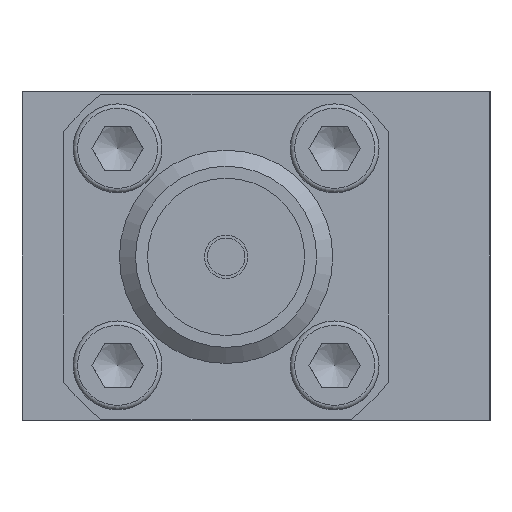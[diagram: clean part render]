
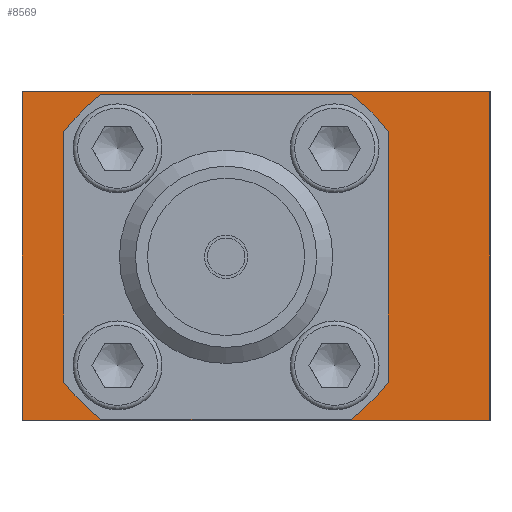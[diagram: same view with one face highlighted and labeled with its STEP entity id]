
A CAD part, left-side view. The second image highlights one B-rep face of the part: STEP entity #8569.
In plain terms, the highlighted planar face has unit normal (-1, 0, 0).
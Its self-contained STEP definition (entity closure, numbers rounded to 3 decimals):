
#186=LINE('',#11369,#597);
#190=LINE('',#11381,#601);
#194=LINE('',#11393,#605);
#198=LINE('',#11405,#609);
#248=LINE('',#11728,#659);
#249=LINE('',#11731,#660);
#250=LINE('',#11733,#661);
#251=LINE('',#11735,#662);
#597=VECTOR('',#9623,1000.);
#601=VECTOR('',#9635,1000.);
#605=VECTOR('',#9647,1000.);
#609=VECTOR('',#9659,1000.);
#659=VECTOR('',#9897,1000.);
#660=VECTOR('',#9898,1000.);
#661=VECTOR('',#9899,1000.);
#662=VECTOR('',#9900,1000.);
#1358=ORIENTED_EDGE('',*,*,#2675,.F.);
#1359=ORIENTED_EDGE('',*,*,#2676,.T.);
#1360=ORIENTED_EDGE('',*,*,#2677,.T.);
#1361=ORIENTED_EDGE('',*,*,#2678,.F.);
#1362=ORIENTED_EDGE('',*,*,#2548,.F.);
#1363=ORIENTED_EDGE('',*,*,#2570,.F.);
#1364=ORIENTED_EDGE('',*,*,#2567,.F.);
#1365=ORIENTED_EDGE('',*,*,#2564,.F.);
#1366=ORIENTED_EDGE('',*,*,#2561,.F.);
#1367=ORIENTED_EDGE('',*,*,#2558,.F.);
#1368=ORIENTED_EDGE('',*,*,#2555,.F.);
#1369=ORIENTED_EDGE('',*,*,#2552,.F.);
#2548=EDGE_CURVE('',#3268,#3269,#3831,.T.);
#2552=EDGE_CURVE('',#3269,#3272,#186,.T.);
#2555=EDGE_CURVE('',#3272,#3274,#3833,.T.);
#2558=EDGE_CURVE('',#3274,#3276,#190,.T.);
#2561=EDGE_CURVE('',#3276,#3278,#3835,.T.);
#2564=EDGE_CURVE('',#3278,#3280,#194,.T.);
#2567=EDGE_CURVE('',#3280,#3282,#3837,.T.);
#2570=EDGE_CURVE('',#3282,#3268,#198,.T.);
#2675=EDGE_CURVE('',#3367,#3368,#248,.T.);
#2676=EDGE_CURVE('',#3367,#3369,#249,.T.);
#2677=EDGE_CURVE('',#3369,#3370,#250,.T.);
#2678=EDGE_CURVE('',#3368,#3370,#251,.T.);
#3268=VERTEX_POINT('',#11361);
#3269=VERTEX_POINT('',#11362);
#3272=VERTEX_POINT('',#11370);
#3274=VERTEX_POINT('',#11376);
#3276=VERTEX_POINT('',#11382);
#3278=VERTEX_POINT('',#11388);
#3280=VERTEX_POINT('',#11394);
#3282=VERTEX_POINT('',#11400);
#3367=VERTEX_POINT('',#11729);
#3368=VERTEX_POINT('',#11730);
#3369=VERTEX_POINT('',#11732);
#3370=VERTEX_POINT('',#11734);
#3831=CIRCLE('',#8938,6.);
#3833=CIRCLE('',#8942,6.);
#3835=CIRCLE('',#8946,6.);
#3837=CIRCLE('',#8950,6.);
#4194=EDGE_LOOP('',(#1358,#1359,#1360,#1361));
#4195=EDGE_LOOP('',(#1362,#1363,#1364,#1365,#1366,#1367,#1368,#1369));
#4835=FACE_BOUND('',#4194,.T.);
#4836=FACE_BOUND('',#4195,.T.);
#5410=PLANE('',#9046);
#8569=ADVANCED_FACE('',(#4835,#4836),#5410,.T.);
#8938=AXIS2_PLACEMENT_3D('',#11360,#9615,#9616);
#8942=AXIS2_PLACEMENT_3D('',#11375,#9628,#9629);
#8946=AXIS2_PLACEMENT_3D('',#11387,#9640,#9641);
#8950=AXIS2_PLACEMENT_3D('',#11399,#9652,#9653);
#9046=AXIS2_PLACEMENT_3D('',#11727,#9895,#9896);
#9615=DIRECTION('',(-1.,0.,0.));
#9616=DIRECTION('',(0.,0.,-1.));
#9623=DIRECTION('',(0.,0.,-1.));
#9628=DIRECTION('',(-1.,0.,0.));
#9629=DIRECTION('',(0.,0.,-1.));
#9635=DIRECTION('',(0.,-1.,0.));
#9640=DIRECTION('',(-1.,0.,0.));
#9641=DIRECTION('',(0.,0.,-1.));
#9647=DIRECTION('',(0.,0.,1.));
#9652=DIRECTION('',(-1.,0.,0.));
#9653=DIRECTION('',(0.,0.,-1.));
#9659=DIRECTION('',(0.,1.,0.));
#9895=DIRECTION('',(-1.,0.,0.));
#9896=DIRECTION('',(0.,0.,1.));
#9897=DIRECTION('',(0.,0.,-1.));
#9898=DIRECTION('',(0.,1.,0.));
#9899=DIRECTION('',(0.,0.,-1.));
#9900=DIRECTION('',(0.,1.,0.));
#11360=CARTESIAN_POINT('',(-15.54,2.78,4.775));
#11361=CARTESIAN_POINT('',(-15.54,6.446,9.525));
#11362=CARTESIAN_POINT('',(-15.54,7.53,8.441));
#11369=CARTESIAN_POINT('',(-15.54,7.53,8.441));
#11370=CARTESIAN_POINT('',(-15.54,7.53,1.109));
#11375=CARTESIAN_POINT('',(-15.54,2.78,4.775));
#11376=CARTESIAN_POINT('',(-15.54,6.446,0.025));
#11381=CARTESIAN_POINT('',(-15.54,6.446,0.025));
#11382=CARTESIAN_POINT('',(-15.54,-0.886,0.025));
#11387=CARTESIAN_POINT('',(-15.54,2.78,4.775));
#11388=CARTESIAN_POINT('',(-15.54,-1.97,1.109));
#11393=CARTESIAN_POINT('',(-15.54,-1.97,1.109));
#11394=CARTESIAN_POINT('',(-15.54,-1.97,8.441));
#11399=CARTESIAN_POINT('',(-15.54,2.78,4.775));
#11400=CARTESIAN_POINT('',(-15.54,-0.886,9.525));
#11405=CARTESIAN_POINT('',(-15.54,-0.886,9.525));
#11727=CARTESIAN_POINT('',(-15.54,-4.94,4.35));
#11728=CARTESIAN_POINT('',(-15.54,-4.94,4.35));
#11729=CARTESIAN_POINT('',(-15.54,-4.94,9.6));
#11730=CARTESIAN_POINT('',(-15.54,-4.94,0.));
#11731=CARTESIAN_POINT('',(-15.54,-4.94,9.6));
#11732=CARTESIAN_POINT('',(-15.54,8.75,9.6));
#11733=CARTESIAN_POINT('',(-15.54,8.75,4.35));
#11734=CARTESIAN_POINT('',(-15.54,8.75,0.));
#11735=CARTESIAN_POINT('',(-15.54,-4.94,0.));
